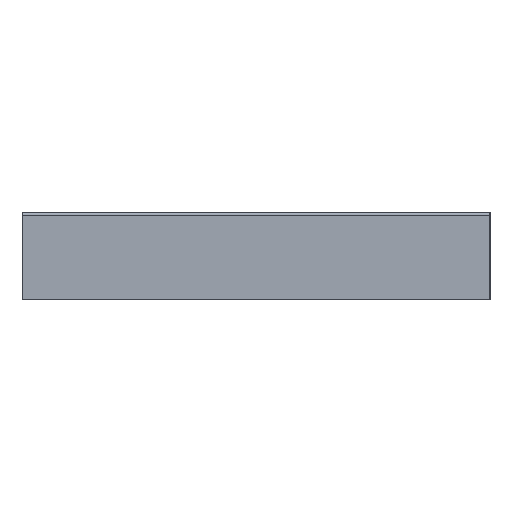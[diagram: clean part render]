
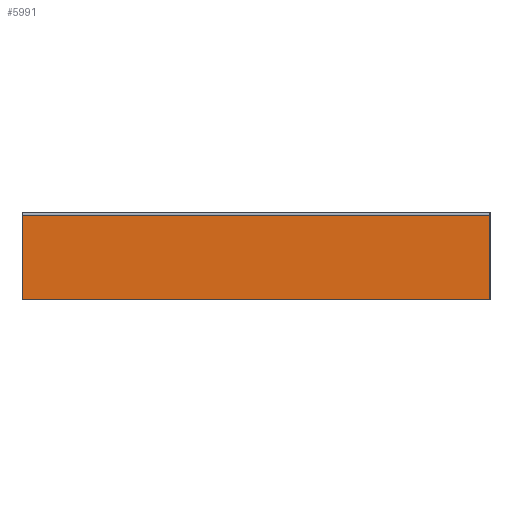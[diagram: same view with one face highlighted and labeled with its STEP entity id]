
A CAD part, left-side view. The second image highlights one B-rep face of the part: STEP entity #5991.
In plain terms, the highlighted planar face has unit normal (-1, 0, 0).
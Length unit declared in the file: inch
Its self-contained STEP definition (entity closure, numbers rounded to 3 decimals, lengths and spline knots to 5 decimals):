
#77 = VERTEX_POINT ( 'NONE', #5564 ) ;
#250 = VERTEX_POINT ( 'NONE', #773 ) ;
#359 = CARTESIAN_POINT ( 'NONE',  ( 0., 0., 0. ) ) ;
#413 = PLANE ( 'NONE',  #1535 ) ;
#483 = FACE_OUTER_BOUND ( 'NONE', #2064, .T. ) ;
#773 = CARTESIAN_POINT ( 'NONE',  ( 0., -2.4, 0.435 ) ) ;
#987 = LINE ( 'NONE', #359, #2505 ) ;
#1209 = CARTESIAN_POINT ( 'NONE',  ( 0., 0., 0.45 ) ) ;
#1352 = ORIENTED_EDGE ( 'NONE', *, *, #1898, .F. ) ;
#1535 = AXIS2_PLACEMENT_3D ( 'NONE', #4793, #5882, #6034 ) ;
#1784 = ORIENTED_EDGE ( 'NONE', *, *, #2237, .T. ) ;
#1898 = EDGE_CURVE ( 'NONE', #250, #3940, #6830, .T. ) ;
#1933 = CARTESIAN_POINT ( 'NONE',  ( 0., -2.4, 0.45 ) ) ;
#2040 = EDGE_CURVE ( 'NONE', #77, #3940, #987, .T. ) ;
#2064 = EDGE_LOOP ( 'NONE', ( #1352, #1784, #4842, #4599 ) ) ;
#2237 = EDGE_CURVE ( 'NONE', #250, #3548, #2260, .T. ) ;
#2260 = LINE ( 'NONE', #4408, #4617 ) ;
#2505 = VECTOR ( 'NONE', #3237, 39.37008 ) ;
#2726 = CARTESIAN_POINT ( 'NONE',  ( 0., -2.4, 0. ) ) ;
#3237 = DIRECTION ( 'NONE',  ( 0., -1., 0. ) ) ;
#3324 = DIRECTION ( 'NONE',  ( 0., 0., -1. ) ) ;
#3548 = VERTEX_POINT ( 'NONE', #4746 ) ;
#3940 = VERTEX_POINT ( 'NONE', #2726 ) ;
#4408 = CARTESIAN_POINT ( 'NONE',  ( 0., 0., 0.435 ) ) ;
#4599 = ORIENTED_EDGE ( 'NONE', *, *, #2040, .T. ) ;
#4617 = VECTOR ( 'NONE', #6755, 39.37008 ) ;
#4746 = CARTESIAN_POINT ( 'NONE',  ( 0., 0., 0.435 ) ) ;
#4793 = CARTESIAN_POINT ( 'NONE',  ( 0., 0., 0.45 ) ) ;
#4842 = ORIENTED_EDGE ( 'NONE', *, *, #6125, .T. ) ;
#5117 = VECTOR ( 'NONE', #5731, 39.37008 ) ;
#5152 = VECTOR ( 'NONE', #3324, 39.37008 ) ;
#5564 = CARTESIAN_POINT ( 'NONE',  ( 0., 0., 0. ) ) ;
#5731 = DIRECTION ( 'NONE',  ( 0., 0., -1. ) ) ;
#5882 = DIRECTION ( 'NONE',  ( 1., 0., 0. ) ) ;
#5991 = ADVANCED_FACE ( 'NONE', ( #483 ), #413, .F. ) ;
#6034 = DIRECTION ( 'NONE',  ( 0., 1., 0. ) ) ;
#6125 = EDGE_CURVE ( 'NONE', #3548, #77, #6657, .T. ) ;
#6657 = LINE ( 'NONE', #1209, #5152 ) ;
#6755 = DIRECTION ( 'NONE',  ( 0., 1., 0. ) ) ;
#6830 = LINE ( 'NONE', #1933, #5117 ) ;
